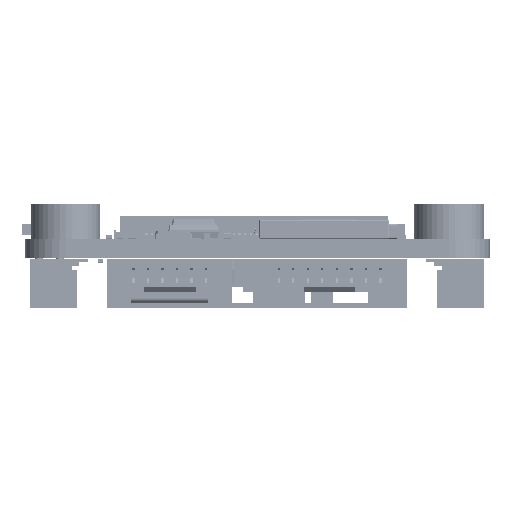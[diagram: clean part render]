
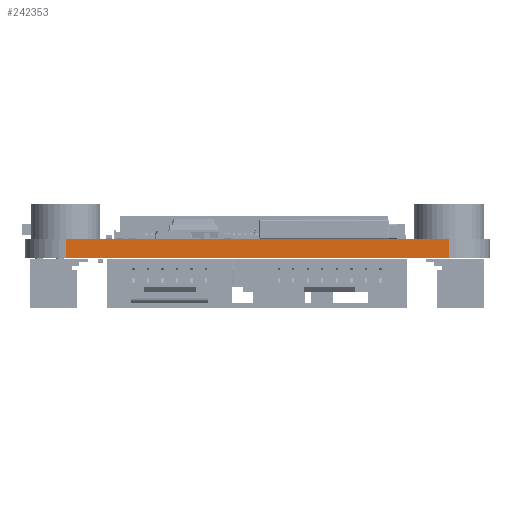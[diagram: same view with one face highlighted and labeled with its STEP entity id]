
A CAD part, front view. The second image highlights one B-rep face of the part: STEP entity #242353.
In plain terms, the highlighted planar face has unit normal (0, -1, 0).
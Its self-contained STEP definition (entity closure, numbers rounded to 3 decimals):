
#27739=FACE_OUTER_BOUND('',#40022,.T.);
#40022=EDGE_LOOP('',(#220486,#220487,#220488,#220489));
#69215=LINE('',#389532,#98417);
#69218=LINE('',#389622,#98420);
#69223=LINE('',#389709,#98425);
#69224=LINE('',#389711,#98426);
#98417=VECTOR('',#320209,1.);
#98420=VECTOR('',#320298,1.);
#98425=VECTOR('',#320389,1.);
#98426=VECTOR('',#320392,1.);
#120378=VERTEX_POINT('',#389529);
#120379=VERTEX_POINT('',#389531);
#120422=VERTEX_POINT('',#389619);
#120423=VERTEX_POINT('',#389621);
#153727=EDGE_CURVE('',#120378,#120379,#69215,.T.);
#153772=EDGE_CURVE('',#120423,#120422,#69218,.T.);
#153816=EDGE_CURVE('',#120378,#120423,#69223,.T.);
#153817=EDGE_CURVE('',#120379,#120422,#69224,.T.);
#220486=ORIENTED_EDGE('',*,*,#153816,.T.);
#220487=ORIENTED_EDGE('',*,*,#153772,.T.);
#220488=ORIENTED_EDGE('',*,*,#153817,.F.);
#220489=ORIENTED_EDGE('',*,*,#153727,.F.);
#230455=PLANE('',#259011);
#242353=ADVANCED_FACE('',(#27739),#230455,.T.);
#259011=AXIS2_PLACEMENT_3D('',#389712,#320393,#320394);
#320209=DIRECTION('',(-1.,0.,0.));
#320298=DIRECTION('',(-1.,0.,0.));
#320389=DIRECTION('',(0.,0.,1.));
#320392=DIRECTION('',(0.,0.,1.));
#320393=DIRECTION('center_axis',(0.,-1.,0.));
#320394=DIRECTION('ref_axis',(-1.,0.,0.));
#389529=CARTESIAN_POINT('',(16.5,-27.5,0.));
#389531=CARTESIAN_POINT('',(-16.5,-27.5,0.));
#389532=CARTESIAN_POINT('',(16.5,-27.5,0.));
#389619=CARTESIAN_POINT('',(-16.5,-27.5,1.6));
#389621=CARTESIAN_POINT('',(16.5,-27.5,1.6));
#389622=CARTESIAN_POINT('',(16.5,-27.5,1.6));
#389709=CARTESIAN_POINT('',(16.5,-27.5,0.));
#389711=CARTESIAN_POINT('',(-16.5,-27.5,0.));
#389712=CARTESIAN_POINT('Origin',(16.5,-27.5,0.));
